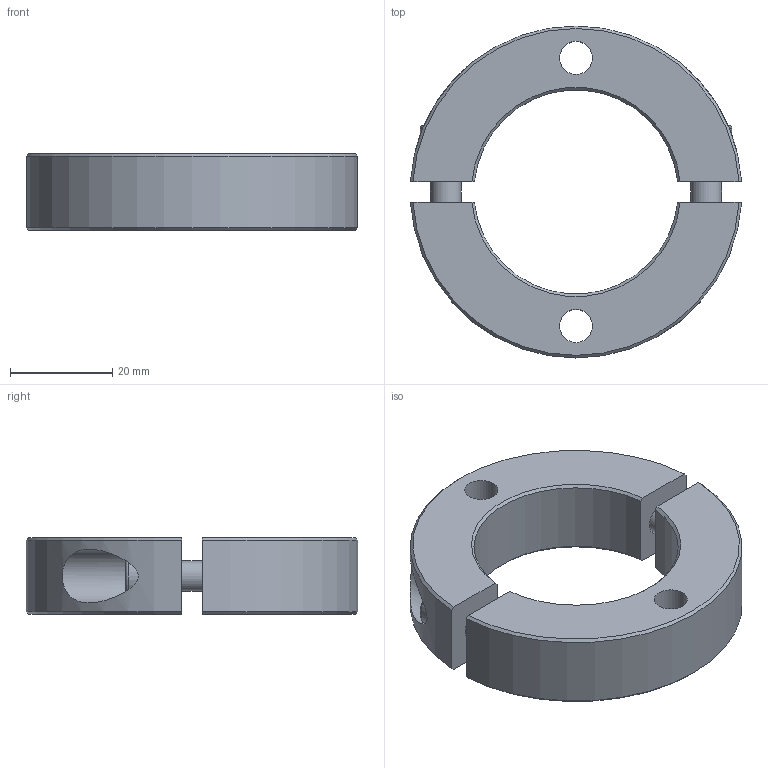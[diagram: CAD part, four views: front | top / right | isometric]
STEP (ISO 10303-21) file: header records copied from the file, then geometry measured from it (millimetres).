
FILE_DESCRIPTION( ( 'STEP AP203' ), '1' );
FILE_NAME( 'C:/Temp/Ganter_Step_05_03_2020/data/3_2/gn7072_2/Split Stainless Steel-Set collar GN 7072.2-65-B40-NI-A.stp', '2020-03-13T05:40:54', ( 'License CC BY-ND 4.0' ), ( 'CADENAS' ), ' ', 'PARTsolutions', ' ' );
FILE_SCHEMA( ( 'CONFIG_CONTROL_DESIGN' ) );
Length unit declared in the file: millimetre
Products named in the file (1): _Split Stainless Steel-Set collar GN 7072.2-65-B40-NI-A
Bounding box: 64.88 x 65 x 15 mm (x, y, z)
Volume: 27109 mm3; surface area: 11281.7 mm2
Topology: 1 solids, 1 shells, 52 faces, 124 edges, 84 vertices
Faces by surface type: plane 28, cylinder 14, cone 8, torus 2
Full cylindrical faces by diameter (mm): 6 x2, 6.4 x2, 6.5 x2, 10 x2, 10.5 x2
Entity records: 1640 total; most frequent: CARTESIAN_POINT 455, DIRECTION 230, ORIENTED_EDGE 212, EDGE_CURVE 106, AXIS2_PLACEMENT_3D 89, EDGE_LOOP 80, VERTEX_POINT 78, FACE_OUTER_BOUND 64
